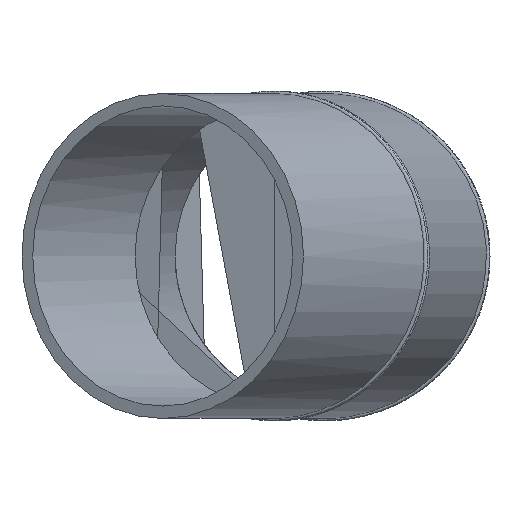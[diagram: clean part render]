
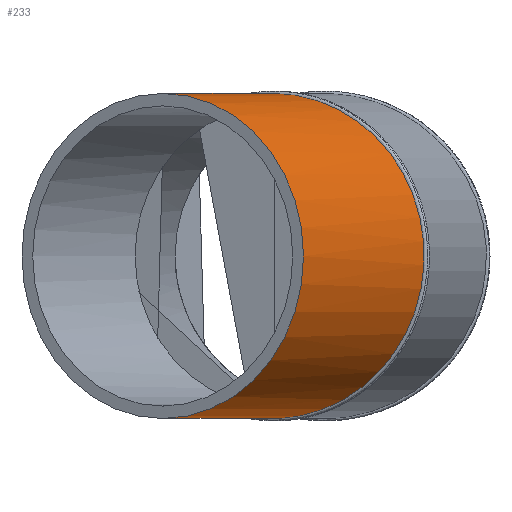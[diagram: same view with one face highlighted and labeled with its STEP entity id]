
A CAD part, front view. The second image highlights one B-rep face of the part: STEP entity #233.
In plain terms, the highlighted cylindrical face has radius 280 mm (diameter 560 mm), a full revolution.
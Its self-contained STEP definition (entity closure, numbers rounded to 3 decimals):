
#37=B_SPLINE_CURVE_WITH_KNOTS('',3,(#396,#397,#398,#399,#400,#401,#402,
#403,#404,#405,#406,#407,#408,#409,#410,#411,#412,#413,#414,#415,#416,#417,
#418,#419,#420,#421,#422,#423,#424,#425,#426,#427,#428,#429,#430,#431,#432,
#433,#434,#435,#436,#437,#438,#439,#440,#441,#442),.UNSPECIFIED.,.T.,.F.,
(1,1,1,1,1,1,1,1,1,1,1,1,1,1,1,1,1,1,1,1,1,1,1,1,1,1,1,1,1,1,1,1,1,1,1,
1,1,1,1,1,1,1,1,1,1,1,1,1,1,1,1),(-0.111,-0.055,
-0.028,0.,0.055,0.111,
0.138,0.166,0.221,0.276,
0.332,0.387,0.442,0.47,
0.497,0.525,0.553,0.608,
0.636,0.663,0.718,0.746,
0.774,0.829,0.884,0.939,
0.967,0.995,1.022,1.05,1.105,
1.133,1.161,1.216,1.271,1.326,
1.382,1.437,1.464,1.492,1.52,
1.547,1.603,1.63,1.658,1.713,
1.741,1.768,1.824,1.879,1.907),
 .UNSPECIFIED.);
#46=CYLINDRICAL_SURFACE('',#283,280.);
#78=ORIENTED_EDGE('',*,*,#130,.T.);
#79=ORIENTED_EDGE('',*,*,#123,.F.);
#123=EDGE_CURVE('',#149,#149,#169,.T.);
#130=EDGE_CURVE('',#156,#156,#37,.T.);
#149=VERTEX_POINT('',#381);
#156=VERTEX_POINT('',#443);
#169=CIRCLE('',#275,280.);
#175=EDGE_LOOP('',(#78));
#176=EDGE_LOOP('',(#79));
#203=FACE_BOUND('',#175,.T.);
#204=FACE_BOUND('',#176,.T.);
#233=ADVANCED_FACE('',(#203,#204),#46,.T.);
#275=AXIS2_PLACEMENT_3D('',#380,#312,#313);
#283=AXIS2_PLACEMENT_3D('',#395,#328,#329);
#312=DIRECTION('',(0.,1.,0.));
#313=DIRECTION('',(-1.,0.,0.));
#328=DIRECTION('',(0.,1.,0.));
#329=DIRECTION('',(-1.,0.,0.));
#380=CARTESIAN_POINT('',(1267.448,220.,0.));
#381=CARTESIAN_POINT('',(987.448,220.,0.));
#395=CARTESIAN_POINT('',(1267.448,-203.725,0.));
#396=CARTESIAN_POINT('',(988.358,-122.085,-27.633));
#397=CARTESIAN_POINT('',(986.538,-121.846,9.217));
#398=CARTESIAN_POINT('',(991.09,-122.444,55.21));
#399=CARTESIAN_POINT('',(1004.561,-124.214,99.414));
#400=CARTESIAN_POINT('',(1020.343,-126.288,132.636));
#401=CARTESIAN_POINT('',(1039.317,-128.782,164.16));
#402=CARTESIAN_POINT('',(1068.612,-132.634,199.695));
#403=CARTESIAN_POINT('',(1111.369,-138.256,234.627));
#404=CARTESIAN_POINT('',(1160.,-144.653,260.505));
#405=CARTESIAN_POINT('',(1212.713,-151.589,276.423));
#406=CARTESIAN_POINT('',(1258.304,-157.59,280.893));
#407=CARTESIAN_POINT('',(1294.823,-162.398,279.107));
#408=CARTESIAN_POINT('',(1321.932,-165.968,275.103));
#409=CARTESIAN_POINT('',(1348.528,-169.471,268.471));
#410=CARTESIAN_POINT('',(1382.995,-174.011,256.194));
#411=CARTESIAN_POINT('',(1415.42,-178.284,238.938));
#412=CARTESIAN_POINT('',(1444.892,-182.168,217.176));
#413=CARTESIAN_POINT('',(1472.14,-185.76,192.591));
#414=CARTESIAN_POINT('',(1495.579,-188.85,164.155));
#415=CARTESIAN_POINT('',(1514.536,-191.35,132.67));
#416=CARTESIAN_POINT('',(1530.339,-193.434,99.408));
#417=CARTESIAN_POINT('',(1543.801,-195.21,55.238));
#418=CARTESIAN_POINT('',(1549.269,-195.931,-0.002));
#419=CARTESIAN_POINT('',(1544.721,-195.331,-45.983));
#420=CARTESIAN_POINT('',(1535.728,-194.145,-81.731));
#421=CARTESIAN_POINT('',(1526.392,-192.914,-107.711));
#422=CARTESIAN_POINT('',(1514.555,-191.353,-132.633));
#423=CARTESIAN_POINT('',(1495.586,-188.851,-164.15));
#424=CARTESIAN_POINT('',(1472.143,-185.76,-192.585));
#425=CARTESIAN_POINT('',(1444.924,-182.173,-217.15));
#426=CARTESIAN_POINT('',(1415.426,-178.285,-238.937));
#427=CARTESIAN_POINT('',(1374.905,-172.945,-260.501));
#428=CARTESIAN_POINT('',(1322.199,-166.003,-276.42));
#429=CARTESIAN_POINT('',(1267.476,-158.797,-281.789));
#430=CARTESIAN_POINT('',(1212.711,-151.588,-276.423));
#431=CARTESIAN_POINT('',(1168.828,-145.814,-263.174));
#432=CARTESIAN_POINT('',(1135.697,-141.456,-247.574));
#433=CARTESIAN_POINT('',(1112.117,-138.354,-233.502));
#434=CARTESIAN_POINT('',(1090.009,-135.447,-217.18));
#435=CARTESIAN_POINT('',(1062.764,-131.865,-192.599));
#436=CARTESIAN_POINT('',(1039.321,-128.783,-164.162));
#437=CARTESIAN_POINT('',(1020.362,-126.291,-132.673));
#438=CARTESIAN_POINT('',(1004.56,-124.214,-99.418));
#439=CARTESIAN_POINT('',(993.79,-122.799,-64.072));
#440=CARTESIAN_POINT('',(988.358,-122.085,-27.633));
#441=CARTESIAN_POINT('',(986.538,-121.846,9.217));
#442=CARTESIAN_POINT('',(991.09,-122.444,55.21));
#443=CARTESIAN_POINT('',(987.448,-121.965,0.));
